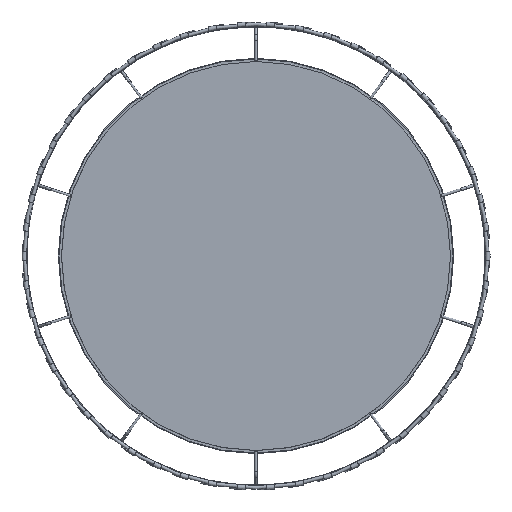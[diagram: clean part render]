
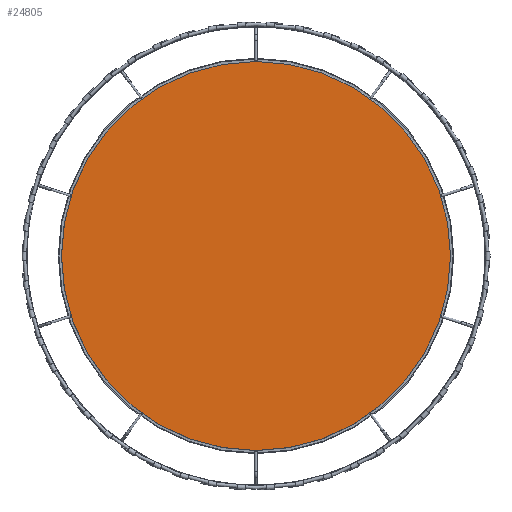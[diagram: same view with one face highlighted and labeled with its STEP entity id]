
A CAD part, front view. The second image highlights one B-rep face of the part: STEP entity #24805.
In plain terms, the highlighted planar face has unit normal (0, -1, 0).
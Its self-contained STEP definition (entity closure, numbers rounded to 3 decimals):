
#1878=PLANE('',#27732);
#7329=FACE_OUTER_BOUND('',#9012,.T.);
#9012=EDGE_LOOP('',(#22766));
#10475=CIRCLE('',#27730,300.);
#12731=VERTEX_POINT('',#49162);
#16085=EDGE_CURVE('',#12731,#12731,#10475,.T.);
#22766=ORIENTED_EDGE('',*,*,#16085,.T.);
#24805=ADVANCED_FACE('',(#7329),#1878,.T.);
#27730=AXIS2_PLACEMENT_3D('',#49163,#34916,#34917);
#27732=AXIS2_PLACEMENT_3D('',#49167,#34921,#34922);
#34916=DIRECTION('center_axis',(0.,-1.,0.));
#34917=DIRECTION('ref_axis',(1.,0.,0.));
#34921=DIRECTION('center_axis',(0.,-1.,0.));
#34922=DIRECTION('ref_axis',(1.,0.,0.));
#49162=CARTESIAN_POINT('',(-300.,18.,0.));
#49163=CARTESIAN_POINT('Origin',(0.,18.,0.));
#49167=CARTESIAN_POINT('Origin',(0.,18.,0.));
